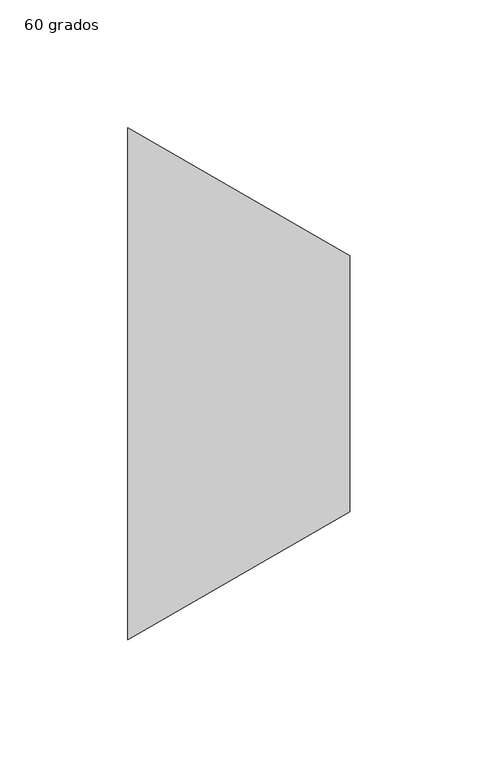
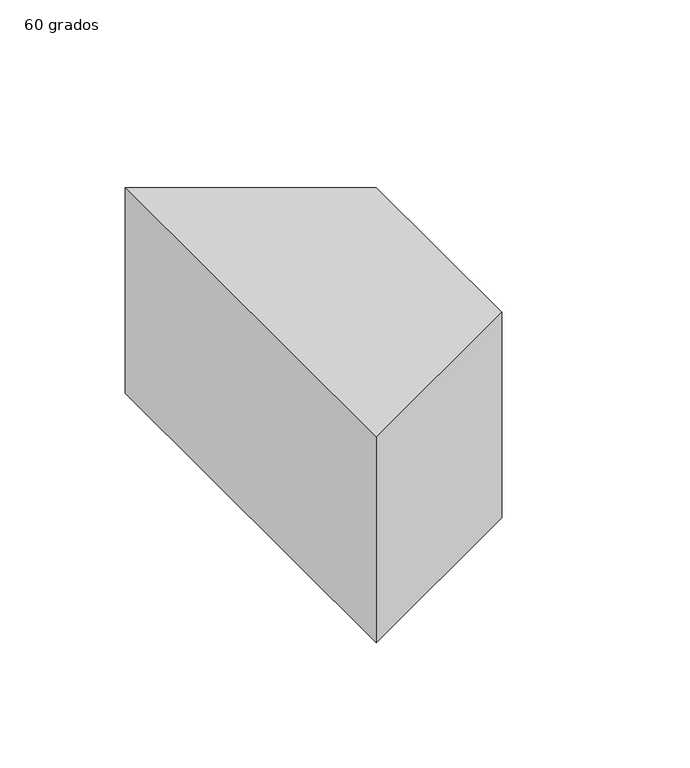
"""IFC4 building model written with IfcOpenShell, lengths in millimetres: duct fitting geometry, M_Transición rectangular - Ángulo : 60 grados."""

from ifc_helpers import new_model, si_unit, frame, origin, place, context, project, spatial, polyline, outline, extrude, source, transform, mapped, element, save


def duct_fitting_60_grados_f706110a(model_context):
    return source(origin(), model_context, "Body", "SweptSolid", [
        extrude(outline(polyline([(0.0, -100.0), (0.0, 100.0), (86.6025404, 50.0), (86.6025404, -50.0), (0.0, -100.0)])), frame((0.0, 0.0, -50.0), z_axis=(0.0, 0.0, 1.0), x_axis=(1.0, 0.0, 0.0)), (0.0, 0.0, 1.0), 100.0),
    ])


if __name__ == "__main__":
    model = new_model("IFC4")
    model_context = context("Model", 3, world=origin())
    ifc_project = project(units=[si_unit("LENGTHUNIT", "METRE", prefix="MILLI")], contexts=[model_context])
    site = spatial("IfcSite", under=ifc_project)
    building = spatial("IfcBuilding", under=site)
    placement = place(None, origin())
    duct_fitting_60_grados_shape = duct_fitting_60_grados_f706110a(model_context)
    element("IfcDuctFitting", 1, ObjectType="M_Transición rectangular - Ángulo : 60 grados", at=placement, inside=building, context=model_context, shape_type="MappedRepresentation", body=[
        mapped(duct_fitting_60_grados_shape, transform((0.0, 0.0, 0.0), x_axis=(1.0, 0.0, 0.0), y_axis=(0.0, 1.0, 0.0), z_axis=(0.0, 0.0, 1.0))),
    ])
    save(model, "model.ifc")
